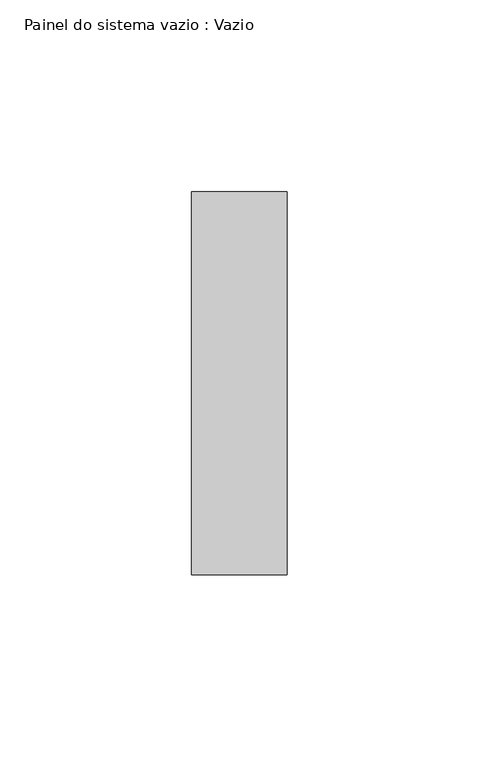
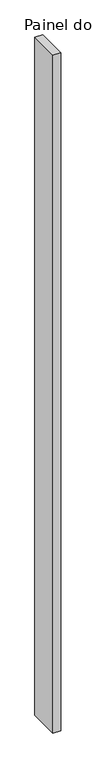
"""IFC4 building model written with IfcOpenShell, lengths in millimetres: plate geometry, Painel do sistema vazio : Vazio."""

from ifc_helpers import new_model, si_unit, origin, origin_with_axes, place, context, project, spatial, polyline, outline, extrude, source, transform, mapped, element, save


def painel_do_sistema_vazio_vazio_7123cc3e(model_context):
    return source(origin(), model_context, "Body", "SweptSolid", [
        extrude(outline(polyline([(12.4999998, -50.0), (-12.4999998, -50.0), (-12.4999998, 50.0), (12.4999998, 50.0), (12.4999998, -50.0)])), origin_with_axes(), (0.0, 0.0, 1.0), 2300.0),
    ])


if __name__ == "__main__":
    model = new_model("IFC4")
    model_context = context("Model", 3, world=origin())
    ifc_project = project(units=[si_unit("LENGTHUNIT", "METRE", prefix="MILLI")], contexts=[model_context])
    site = spatial("IfcSite", under=ifc_project)
    building = spatial("IfcBuilding", under=site)
    placement = place(None, origin())
    painel_do_sistema_vazio_vazio_shape = painel_do_sistema_vazio_vazio_7123cc3e(model_context)
    element("IfcPlate", 1, ObjectType="Painel do sistema vazio : Vazio", at=placement, inside=building, context=model_context, shape_type="MappedRepresentation", body=[
        mapped(painel_do_sistema_vazio_vazio_shape, transform((0.0, 0.0, 0.0), x_axis=(1.0, 0.0, 0.0), y_axis=(0.0, 1.0, 0.0), z_axis=(0.0, 0.0, 1.0))),
    ])
    save(model, "model.ifc")
